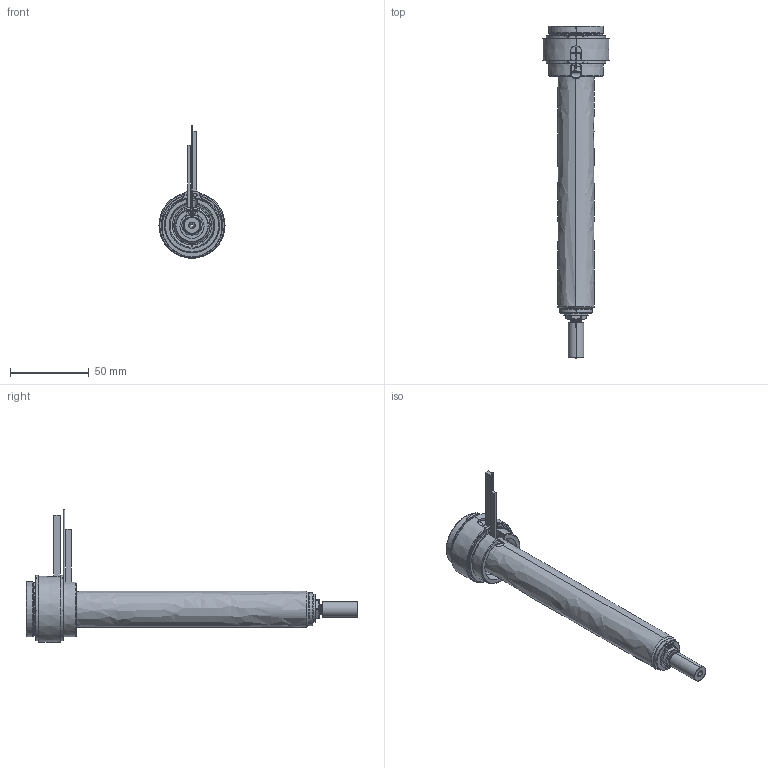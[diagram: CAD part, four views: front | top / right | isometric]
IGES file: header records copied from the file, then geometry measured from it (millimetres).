
Start section: SolidWorks IGES file using analytic representation for surfaces
Global section: file name: C:\Users\luca.EMPAD\Desktop\TEM\UGBE3504-S-A-P-3 [Ød-1.5 P-20 ØC-7.0].IGS; native system: SolidWorks 2012; preprocessor: SolidWorks 2012; author: luca; date: 120330.140629; units: millimetre
Bounding box: 42 x 211 x 84.4 mm (x, y, z)
Surface area: 36649 mm2 (no closed solid volume)
Topology: 0 solids, 0 shells, 188 faces, 3506 edges, 3506 vertices
Faces by surface type: revolution 120, bspline 68
